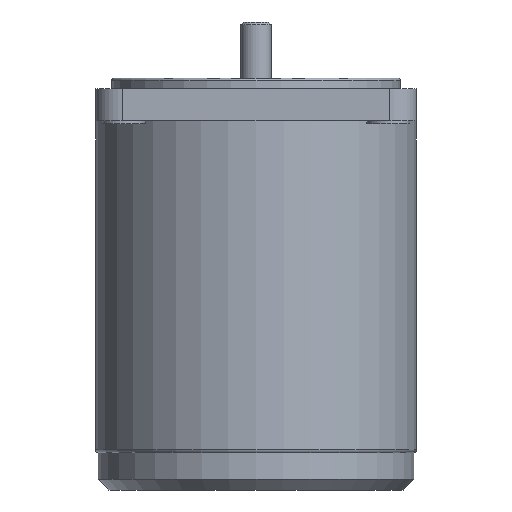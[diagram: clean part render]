
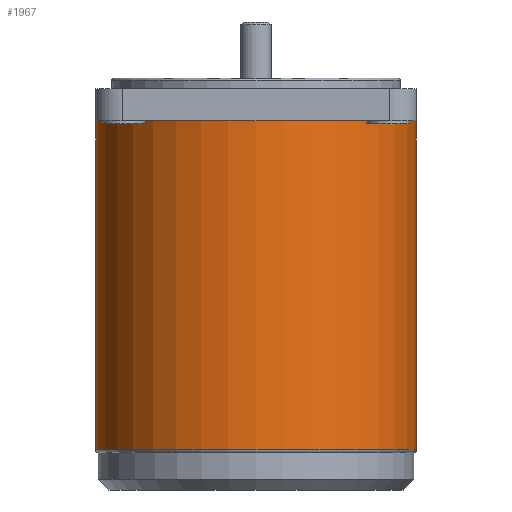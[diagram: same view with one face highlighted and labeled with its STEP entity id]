
A CAD part, left-side view. The second image highlights one B-rep face of the part: STEP entity #1967.
In plain terms, the highlighted cylindrical face has radius 30 mm (diameter 60 mm), a full revolution.
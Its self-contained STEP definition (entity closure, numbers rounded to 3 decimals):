
#600=CARTESIAN_POINT('',(29.33,6.304,64.));
#601=VERTEX_POINT('',#600);
#608=CARTESIAN_POINT('',(25.197,16.282,64.));
#609=VERTEX_POINT('',#608);
#610=CARTESIAN_POINT('',(25.197,16.282,64.0));
#611=CARTESIAN_POINT('',(25.197,16.282,63.32));
#612=CARTESIAN_POINT('',(25.273,16.166,62.596));
#613=CARTESIAN_POINT('',(25.57,15.692,61.266));
#614=CARTESIAN_POINT('',(25.79,15.334,60.66));
#615=CARTESIAN_POINT('',(26.27,14.496,59.703));
#616=CARTESIAN_POINT('',(26.562,13.961,59.288));
#617=CARTESIAN_POINT('',(27.156,12.767,58.736));
#618=CARTESIAN_POINT('',(27.456,12.108,58.6));
#619=CARTESIAN_POINT('',(27.976,10.853,58.6));
#620=CARTESIAN_POINT('',(28.23,10.174,58.736));
#621=CARTESIAN_POINT('',(28.654,8.91,59.288));
#622=CARTESIAN_POINT('',(28.826,8.325,59.703));
#623=CARTESIAN_POINT('',(29.079,7.394,60.66));
#624=CARTESIAN_POINT('',(29.177,6.985,61.266));
#625=CARTESIAN_POINT('',(29.302,6.44,62.596));
#626=CARTESIAN_POINT('',(29.33,6.304,63.32));
#627=CARTESIAN_POINT('',(29.33,6.304,64.));
#628=B_SPLINE_CURVE_WITH_KNOTS('',3,(#610,#611,#612,#613,#614,#615,#616,#617,#618,#619,#620,#621,#622,#623,#624,#625,#626,#627),.UNSPECIFIED.,.F.,.U.,(4,2,2,2,2,2,2,2,4),(1.631,1.835,2.039,2.243,2.447,2.651,2.854,3.058,3.262),.UNSPECIFIED.);
#629=EDGE_CURVE('',#609,#601,#628,.T.);
#647=CARTESIAN_POINT('',(25.197,16.282,69.0));
#648=VERTEX_POINT('',#647);
#649=CARTESIAN_POINT('',(25.197,16.282,69.0));
#650=DIRECTION('',(0.0,0.0,-1.0));
#651=VECTOR('',#650,5.);
#652=LINE('',#649,#651);
#653=EDGE_CURVE('',#648,#609,#652,.T.);
#680=CARTESIAN_POINT('',(29.33,6.304,69.0));
#681=VERTEX_POINT('',#680);
#688=CARTESIAN_POINT('',(29.33,6.304,64.));
#689=DIRECTION('',(0.0,0.0,1.0));
#690=VECTOR('',#689,5.);
#691=LINE('',#688,#690);
#692=EDGE_CURVE('',#601,#681,#691,.T.);
#723=CARTESIAN_POINT('',(0.,30.0,69.0));
#724=VERTEX_POINT('',#723);
#725=CARTESIAN_POINT('',(0.0,0.0,69.0));
#726=DIRECTION('',(0.0,0.0,1.0));
#727=DIRECTION('',(1.0,0.0,0.0));
#728=AXIS2_PLACEMENT_3D('',#725,#726,#727);
#729=CIRCLE('',#728,30.0);
#730=EDGE_CURVE('',#648,#724,#729,.T.);
#1881=CARTESIAN_POINT('',(-30.0,0.0,69.0));
#1882=VERTEX_POINT('',#1881);
#1883=CARTESIAN_POINT('',(0.0,0.0,69.0));
#1884=DIRECTION('',(0.0,0.0,1.0));
#1885=DIRECTION('',(1.0,0.0,0.0));
#1886=AXIS2_PLACEMENT_3D('',#1883,#1884,#1885);
#1887=CIRCLE('',#1886,30.0);
#1888=EDGE_CURVE('',#724,#1882,#1887,.T.);
#1919=CARTESIAN_POINT('',(0.0,0.0,0.0));
#1920=DIRECTION('',(0.0,0.0,1.0));
#1921=DIRECTION('',(-1.0,0.0,0.0));
#1922=AXIS2_PLACEMENT_3D('',#1919,#1920,#1921);
#1923=CYLINDRICAL_SURFACE('',#1922,30.0);
#1924=ORIENTED_EDGE('',*,*,#629,.T.);
#1925=ORIENTED_EDGE('',*,*,#692,.T.);
#1926=CARTESIAN_POINT('',(30.0,0.0,69.0));
#1927=VERTEX_POINT('',#1926);
#1928=CARTESIAN_POINT('',(0.0,0.0,69.0));
#1929=DIRECTION('',(0.0,0.0,1.0));
#1930=DIRECTION('',(1.0,0.0,0.0));
#1931=AXIS2_PLACEMENT_3D('',#1928,#1929,#1930);
#1932=CIRCLE('',#1931,30.0);
#1933=EDGE_CURVE('',#1927,#681,#1932,.T.);
#1934=ORIENTED_EDGE('',*,*,#1933,.F.);
#1935=CARTESIAN_POINT('',(0.0,-30.0,69.0));
#1936=VERTEX_POINT('',#1935);
#1937=CARTESIAN_POINT('',(0.0,0.0,69.0));
#1938=DIRECTION('',(0.0,0.0,1.0));
#1939=DIRECTION('',(1.0,0.0,0.0));
#1940=AXIS2_PLACEMENT_3D('',#1937,#1938,#1939);
#1941=CIRCLE('',#1940,30.0);
#1942=EDGE_CURVE('',#1936,#1927,#1941,.T.);
#1943=ORIENTED_EDGE('',*,*,#1942,.F.);
#1944=CARTESIAN_POINT('',(0.0,0.0,69.0));
#1945=DIRECTION('',(0.0,0.0,1.0));
#1946=DIRECTION('',(1.0,0.0,0.0));
#1947=AXIS2_PLACEMENT_3D('',#1944,#1945,#1946);
#1948=CIRCLE('',#1947,30.0);
#1949=EDGE_CURVE('',#1882,#1936,#1948,.T.);
#1950=ORIENTED_EDGE('',*,*,#1949,.F.);
#1951=ORIENTED_EDGE('',*,*,#1888,.F.);
#1952=ORIENTED_EDGE('',*,*,#730,.F.);
#1953=ORIENTED_EDGE('',*,*,#653,.T.);
#1954=EDGE_LOOP('',(#1924,#1925,#1934,#1943,#1950,#1951,#1952,#1953));
#1955=FACE_OUTER_BOUND('',#1954,.T.);
#1956=CARTESIAN_POINT('',(-30.0,0.,7.5));
#1957=VERTEX_POINT('',#1956);
#1958=CARTESIAN_POINT('',(0.0,0.0,7.5));
#1959=DIRECTION('',(0.0,0.0,-1.0));
#1960=DIRECTION('',(1.0,0.0,0.0));
#1961=AXIS2_PLACEMENT_3D('',#1958,#1959,#1960);
#1962=CIRCLE('',#1961,30.0);
#1963=EDGE_CURVE('',#1957,#1957,#1962,.T.);
#1964=ORIENTED_EDGE('',*,*,#1963,.F.);
#1965=EDGE_LOOP('',(#1964));
#1966=FACE_BOUND('',#1965,.T.);
#1967=ADVANCED_FACE('',(#1955,#1966),#1923,.T.);
